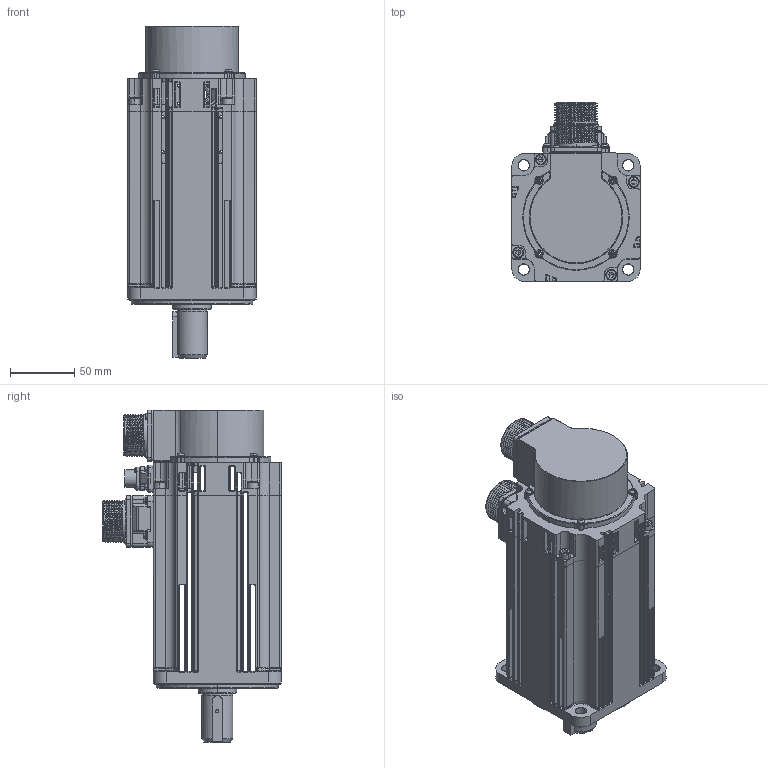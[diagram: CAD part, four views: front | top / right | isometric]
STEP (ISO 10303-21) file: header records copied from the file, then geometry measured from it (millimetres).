
FILE_DESCRIPTION (( 'STEP AP214' ), '1' );
FILE_NAME ('口100 2.5kW刹车电机（雷赛）.STEP', '2024-09-18T07:53:40', ( '' ), ( '' ), 'SwSTEP 2.0', 'SolidWorks 2021', '' );
FILE_SCHEMA (( 'AUTOMOTIVE_DESIGN' ));
Length unit declared in the file: millimetre
Products named in the file (1): 口100 2.5kW刹车电机（雷赛）
Bounding box: 100 x 139.5 x 258.9 mm (x, y, z)
Surface area: 153731.5 mm2 (no closed solid volume)
Topology: 0 solids, 91 shells, 1952 faces, 5659 edges, 3694 vertices
Faces by surface type: cylinder 838, plane 583, torus 362, sphere 82, cone 58, bspline 29
Entity records: 88899 total; most frequent: CARTESIAN_POINT 15957, DIRECTION 11974, ORIENTED_EDGE 9293, EDGE_CURVE 5584, AXIS2_PLACEMENT_3D 4731, VERTEX_POINT 3666, CIRCLE 2807, VECTOR 2512
